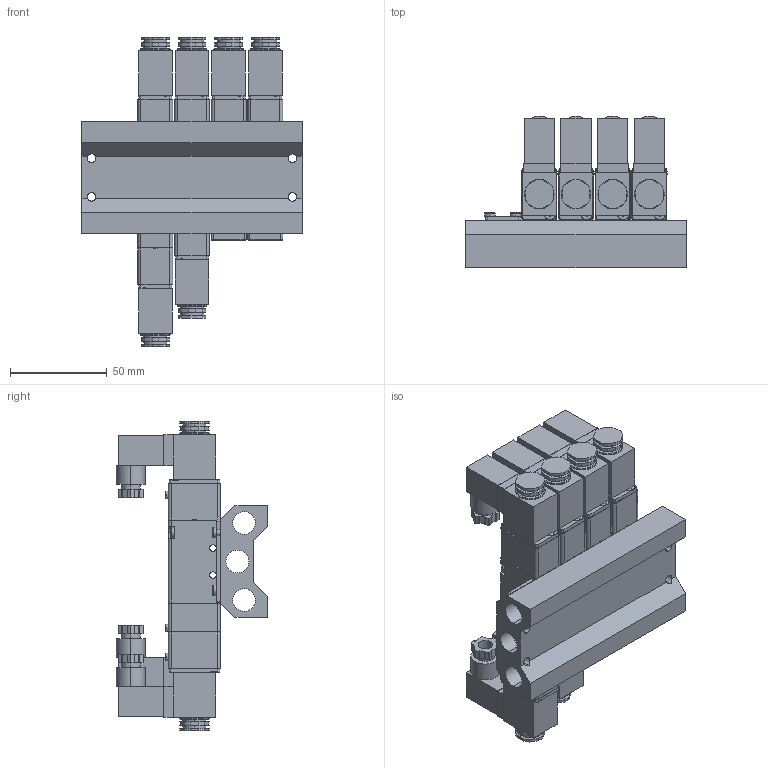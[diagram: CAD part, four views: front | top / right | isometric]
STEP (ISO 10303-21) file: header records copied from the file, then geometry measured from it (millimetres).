
FILE_DESCRIPTION (( 'STEP AP214' ), '1' );
FILE_NAME ('NV-5500-D2(2023-11°æ).STEP', '2023-11-07T10:44:27', ( '' ), ( '' ), 'SwSTEP 2.0', 'SolidWorks 2015', '' );
FILE_SCHEMA (( 'AUTOMOTIVE_DESIGN' ));
Length unit declared in the file: millimetre
Products named in the file (19): NV-5500-G02-_NV5500杶奪嘐隅啣; NV-5500-G01_NV-5500ｵﾗﾗwｰ訐ｵLLOGO; NV-5521-D2(2023-11版)_礚LOGO; NVC-5500傷屳(倰?蚚); 1分插頭型?圈(標準); NV-5500-N01_NV5500手動操作器; NV-5500-D2(2023-11唳); BM-5500-Y01_BM5500單?式底座_礚LOGO; NV-5500-C01(20231026ﾐﾞｸﾄ)_ｵLLOGO; NV-5500-D01_NV5500笢釱; 1煦-M7呿糯蹟簽; NV-5522-D2(2023-11版)_礚LOGO; 十字圓頭螺絲(M3x0.5x9.5); 坋趼鏤螹蹟緲(M3x0.5x23.5); NV-5532-D2(2023-11版)_礚LOGO; 十字圓頭螺絲(M3x0.5x6); 可動鐵管件組(1分); NV-5500-J02; M3x30蹟緲
Assembly tree (63 placements, depth 3):
  NV-5500-D2(2023-11唳)
    BM-5500-Y01_BM5500單?式底座_礚LOGO
    NV-5521-D2(2023-11版)_礚LOGO  x2
      NV-5500-C01(20231026ﾐﾞｸﾄ)_ｵLLOGO
      NV-5500-J02
      NVC-5500傷屳(倰?蚚)
      可動鐵管件組(1分)
      NV-5500-G02-_NV5500杶奪嘐隅啣
      NV-5500-N01_NV5500手動操作器
      坋趼鏤螹蹟緲(M3x0.5x23.5)
      十字圓頭螺絲(M3x0.5x9.5)
      1分插頭型?圈(標準)
      1煦-M7呿糯蹟簽
    NV-5522-D2(2023-11版)_礚LOGO
      NV-5500-C01(20231026ﾐﾞｸﾄ)_ｵLLOGO
      NV-5500-J02  x2
      可動鐵管件組(1分)  x2
      NV-5500-G02-_NV5500杶奪嘐隅啣  x2
      NV-5500-N01_NV5500手動操作器  x2
      坋趼鏤螹蹟緲(M3x0.5x23.5)  x4
      1分插頭型?圈(標準)  x2
      1煦-M7呿糯蹟簽  x2
    NV-5532-D2(2023-11版)_礚LOGO
      NV-5500-C01(20231026ﾐﾞｸﾄ)_ｵLLOGO
      NV-5500-J02  x2
      可動鐵管件組(1分)  x2
      NV-5500-G02-_NV5500杶奪嘐隅啣  x2
      NV-5500-N01_NV5500手動操作器  x2
      坋趼鏤螹蹟緲(M3x0.5x23.5)  x4
      1分插頭型?圈(標準)  x2
      1煦-M7呿糯蹟簽  x2
      NV-5500-D01_NV5500笢釱
    M3x30蹟緲  x8
    NV-5500-G01_NV-5500ｵﾗﾗwｰ訐ｵLLOGO
    十字圓頭螺絲(M3x0.5x6)  x2
Bounding box: 114 x 78.5 x 160.6 mm (x, y, z)
Volume: 336096.7 mm3; surface area: 176532.5 mm2
Topology: 95 solids, 95 shells, 2883 faces, 7119 edges, 4556 vertices
Faces by surface type: plane 1270, cylinder 1189, cone 316, torus 108
Entity records: 20405 total; most frequent: DIRECTION 3379, CARTESIAN_POINT 3345, ORIENTED_EDGE 2952, EDGE_CURVE 1476, AXIS2_PLACEMENT_3D 1272, VERTEX_POINT 954, VECTOR 835, LINE 835
